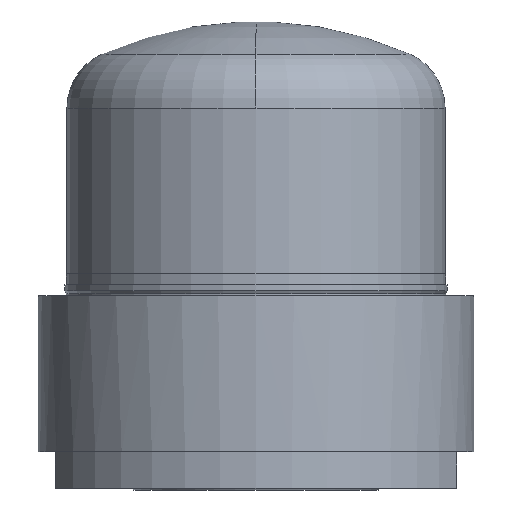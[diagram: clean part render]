
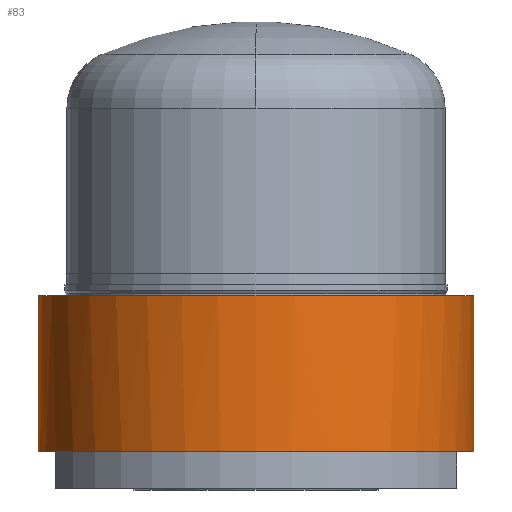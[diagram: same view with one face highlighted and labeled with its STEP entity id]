
A CAD part, left-side view. The second image highlights one B-rep face of the part: STEP entity #83.
In plain terms, the highlighted cylindrical face has radius 24 mm (diameter 48 mm), a partial arc.
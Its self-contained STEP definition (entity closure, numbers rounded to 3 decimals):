
#83 = ADVANCED_FACE( '', ( #197 ), #198, .T. );
#197 = FACE_OUTER_BOUND( '', #415, .T. );
#198 = CYLINDRICAL_SURFACE( '', #416, 24. );
#415 = EDGE_LOOP( '', ( #677, #678, #679, #680, #681, #682 ) );
#416 = AXIS2_PLACEMENT_3D( '', #683, #684, #685 );
#677 = ORIENTED_EDGE( '', *, *, #1515, .F. );
#678 = ORIENTED_EDGE( '', *, *, #1516, .T. );
#679 = ORIENTED_EDGE( '', *, *, #1517, .T. );
#680 = ORIENTED_EDGE( '', *, *, #1518, .T. );
#681 = ORIENTED_EDGE( '', *, *, #1519, .F. );
#682 = ORIENTED_EDGE( '', *, *, #1520, .F. );
#683 = CARTESIAN_POINT( '', ( 0., 0., 12.818 ) );
#684 = DIRECTION( '', ( 0., 0., -1. ) );
#685 = DIRECTION( '', ( 0., 1., 0. ) );
#1515 = EDGE_CURVE( '', #1816, #1817, #1818, .T. );
#1516 = EDGE_CURVE( '', #1816, #1819, #1820, .T. );
#1517 = EDGE_CURVE( '', #1819, #1821, #1822, .T. );
#1518 = EDGE_CURVE( '', #1821, #1823, #1824, .T. );
#1519 = EDGE_CURVE( '', #1825, #1823, #1826, .T. );
#1520 = EDGE_CURVE( '', #1817, #1825, #1827, .T. );
#1816 = VERTEX_POINT( '', #2279 );
#1817 = VERTEX_POINT( '', #2280 );
#1818 = LINE( '', #2281, #2282 );
#1819 = VERTEX_POINT( '', #2283 );
#1820 = CIRCLE( '', #2284, 24. );
#1821 = VERTEX_POINT( '', #2285 );
#1822 = CIRCLE( '', #2286, 24. );
#1823 = VERTEX_POINT( '', #2287 );
#1824 = CIRCLE( '', #2288, 24. );
#1825 = VERTEX_POINT( '', #2289 );
#1826 = LINE( '', #2290, #2291 );
#1827 = CIRCLE( '', #2292, 24. );
#2279 = CARTESIAN_POINT( '', ( 0., 24., 4.2 ) );
#2280 = CARTESIAN_POINT( '', ( 0., 24., 21.437 ) );
#2281 = CARTESIAN_POINT( '', ( 0., 24., 12.818 ) );
#2282 = VECTOR( '', #2892, 1. );
#2283 = CARTESIAN_POINT( '', ( -9.496, 22.042, 4.2 ) );
#2284 = AXIS2_PLACEMENT_3D( '', #2893, #2894, #2895 );
#2285 = CARTESIAN_POINT( '', ( -9.496, -22.042, 4.2 ) );
#2286 = AXIS2_PLACEMENT_3D( '', #2896, #2897, #2898 );
#2287 = CARTESIAN_POINT( '', ( 0., -24., 4.2 ) );
#2288 = AXIS2_PLACEMENT_3D( '', #2899, #2900, #2901 );
#2289 = CARTESIAN_POINT( '', ( 0., -24., 21.437 ) );
#2290 = CARTESIAN_POINT( '', ( 0., -24., 12.818 ) );
#2291 = VECTOR( '', #2902, 1. );
#2292 = AXIS2_PLACEMENT_3D( '', #2903, #2904, #2905 );
#2892 = DIRECTION( '', ( 0., 0., 1. ) );
#2893 = CARTESIAN_POINT( '', ( 0., 0., 4.2 ) );
#2894 = DIRECTION( '', ( 0., 0., 1. ) );
#2895 = DIRECTION( '', ( 0., 1., 0. ) );
#2896 = CARTESIAN_POINT( '', ( 0., 0., 4.2 ) );
#2897 = DIRECTION( '', ( 0., 0., 1. ) );
#2898 = DIRECTION( '', ( 0., 1., 0. ) );
#2899 = CARTESIAN_POINT( '', ( 0., 0., 4.2 ) );
#2900 = DIRECTION( '', ( 0., 0., 1. ) );
#2901 = DIRECTION( '', ( 0., 1., 0. ) );
#2902 = DIRECTION( '', ( 0., 0., -1. ) );
#2903 = CARTESIAN_POINT( '', ( 0., 0., 21.437 ) );
#2904 = DIRECTION( '', ( 0., 0., 1. ) );
#2905 = DIRECTION( '', ( 0., 1., 0. ) );
